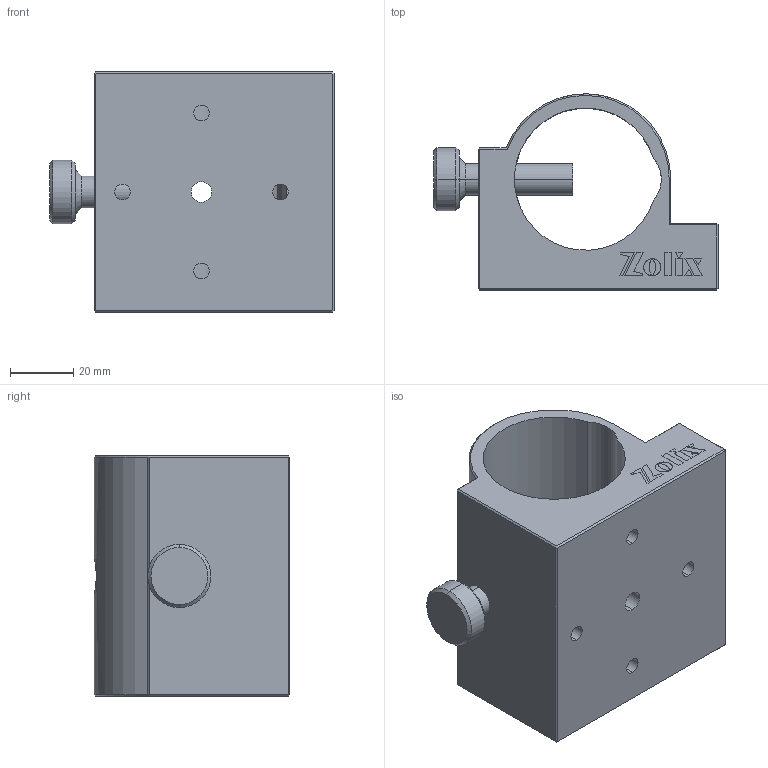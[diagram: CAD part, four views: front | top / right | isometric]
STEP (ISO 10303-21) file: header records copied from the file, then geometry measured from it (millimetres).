
FILE_DESCRIPTION (( 'STEP AP203' ), '1' );
FILE_NAME ('PHLM-2.STEP', '2020-03-31T05:37:58', ( '' ), ( '' ), 'SwSTEP 2.0', 'SolidWorks 2016', '' );
FILE_SCHEMA (( 'CONFIG_CONTROL_DESIGN' ));
Length unit declared in the file: millimetre
Products named in the file (1): PHLM-2
Bounding box: 90 x 62 x 76 mm (x, y, z)
Surface area: 36589.2 mm2 (no closed solid volume)
Topology: 0 solids, 6 shells, 81 faces, 449 edges, 374 vertices
Faces by surface type: plane 53, cylinder 20, cone 8
Entity records: 4848 total; most frequent: CARTESIAN_POINT 1352, DIRECTION 641, ORIENTED_EDGE 606, EDGE_CURVE 449, LINE 393, VECTOR 393, VERTEX_POINT 374, AXIS2_PLACEMENT_3D 124
